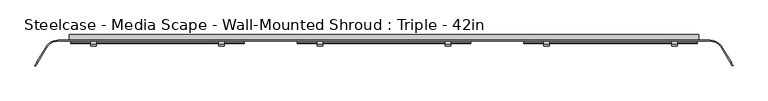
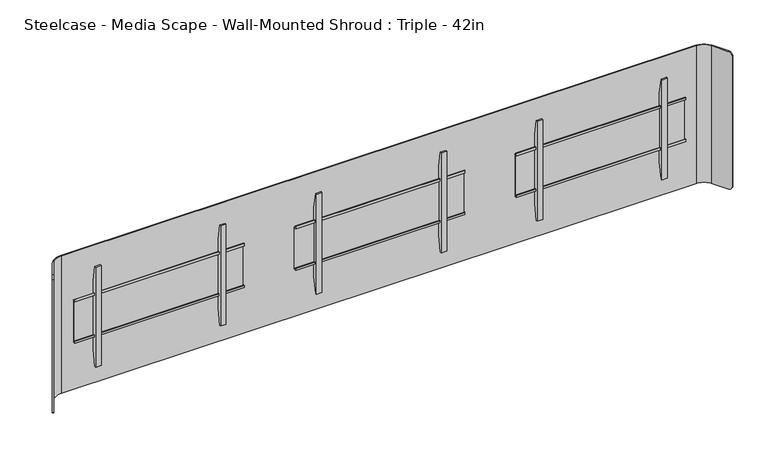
"""IFC4 building model written with IfcOpenShell, lengths in millimetres: furniture geometry, Steelcase - Media Scape - Wall-Mounted Shroud : Triple - 42in."""

from ifc_helpers import new_model, si_unit, frame, origin, place, context, project, spatial, polyline, circle_curve, outline, extrude, source, transform, mapped, element, save
from ifc_brep_helpers import plane_surface, cylinder_surface, revolved_surface, advanced_brep


def steelcase_media_scape_wall_mounted_shroud_triple_42in_8bc5bf69(model_context):
    return source(origin(), model_context, "Body", "SolidModel", [
        extrude(outline(polyline([(-42.4942785, 1288.4504726), (-42.4942785, 1300.4645649), (-39.8272175, 1300.4645649), (-39.8272175, 1291.117461), (-29.9720009, 1291.117461), (-29.9720009, 1076.7922438), (-42.3164551, 1076.7922438), (-42.3164551, 1087.7142515), (-39.649394, 1087.7142515), (-39.649394, 1079.457052), (-32.6531824, 1079.457052), (-32.6531824, 1288.4504726), (-42.4942785, 1288.4504726)])), frame((653.415, 0.0, 0.0), z_axis=(1.0, 0.0, 0.0), x_axis=(0.0, 1.0, 0.0)), (0.0, 0.0, 1.0), 812.8),
        extrude(outline(polyline([(-32.6531824, 1359.3971148), (-32.6531824, 1007.5825607), (-46.5049349, 929.9546949), (-53.3399828, 929.9546949), (-53.3399828, 1437.9547192), (-46.5050076, 1437.9547192), (-32.6531824, 1359.3971148)])), frame((747.016426, 0.0, 0.0), z_axis=(1.0, 0.0, 0.0), x_axis=(0.0, 1.0, 0.0)), (0.0, 0.0, 1.0), 26.1592872),
        extrude(outline(polyline([(-32.6531824, 1359.3971148), (-32.6531824, 1007.5825607), (-46.5049349, 929.9546949), (-53.3399828, 929.9546949), (-53.3399828, 1437.9547192), (-46.5050076, 1437.9547192), (-32.6531824, 1359.3971148)])), frame((1346.4542868, 0.0, 0.0), z_axis=(1.0, 0.0, 0.0), x_axis=(0.0, 1.0, 0.0)), (0.0, 0.0, 1.0), 26.1592872),
        extrude(outline(polyline([(-42.4942785, 1288.4504726), (-42.4942785, 1300.4645649), (-39.8272175, 1300.4645649), (-39.8272175, 1291.117461), (-29.9720009, 1291.117461), (-29.9720009, 1076.7922438), (-42.3164551, 1076.7922438), (-42.3164551, 1087.7142515), (-39.649394, 1087.7142515), (-39.649394, 1079.457052), (-32.6531824, 1079.457052), (-32.6531824, 1288.4504726), (-42.4942785, 1288.4504726)])), frame((-1466.215, 0.0, 0.0), z_axis=(1.0, 0.0, 0.0), x_axis=(0.0, 1.0, 0.0)), (0.0, 0.0, 1.0), 812.8),
        extrude(outline(polyline([(-32.6531824, 1359.3971148), (-32.6531824, 1007.5825607), (-46.5049349, 929.9546949), (-53.3399828, 929.9546949), (-53.3399828, 1437.9547192), (-46.5050076, 1437.9547192), (-32.6531824, 1359.3971148)])), frame((-773.1757132, 0.0, 0.0), z_axis=(1.0, 0.0, 0.0), x_axis=(0.0, 1.0, 0.0)), (0.0, 0.0, 1.0), 26.1592872),
        extrude(outline(polyline([(-32.6531824, 1359.3971148), (-32.6531824, 1007.5825607), (-46.5049349, 929.9546949), (-53.3399828, 929.9546949), (-53.3399828, 1437.9547192), (-46.5050076, 1437.9547192), (-32.6531824, 1359.3971148)])), frame((-1372.613574, 0.0, 0.0), z_axis=(1.0, 0.0, 0.0), x_axis=(0.0, 1.0, 0.0)), (0.0, 0.0, 1.0), 26.1592872),
        extrude(outline(polyline([(-42.4942785, 1288.4504726), (-42.4942785, 1300.4645649), (-39.8272175, 1300.4645649), (-39.8272175, 1291.117461), (-29.9720009, 1291.117461), (-29.9720009, 1076.7922438), (-42.3164551, 1076.7922438), (-42.3164551, 1087.7142515), (-39.649394, 1087.7142515), (-39.649394, 1079.457052), (-32.6531824, 1079.457052), (-32.6531824, 1288.4504726), (-42.4942785, 1288.4504726)])), frame((-406.4, 0.0, 0.0), z_axis=(1.0, 0.0, 0.0), x_axis=(0.0, 1.0, 0.0)), (0.0, 0.0, 1.0), 812.8),
        extrude(outline(polyline([(-32.6531824, 1359.3971148), (-32.6531824, 1007.5825607), (-46.5049349, 929.9546949), (-53.3399828, 929.9546949), (-53.3399828, 1437.9547192), (-46.5050076, 1437.9547192), (-32.6531824, 1359.3971148)])), frame((286.6392868, 0.0, 0.0), z_axis=(1.0, 0.0, 0.0), x_axis=(0.0, 1.0, 0.0)), (0.0, 0.0, 1.0), 26.1592872),
        extrude(outline(polyline([(-32.6531824, 1359.3971148), (-32.6531824, 1007.5825607), (-46.5049349, 929.9546949), (-53.3399828, 929.9546949), (-53.3399828, 1437.9547192), (-46.5050076, 1437.9547192), (-32.6531824, 1359.3971148)])), frame((-312.798574, 0.0, 0.0), z_axis=(1.0, 0.0, 0.0), x_axis=(0.0, 1.0, 0.0)), (0.0, 0.0, 1.0), 26.1592872),
        advanced_brep(
        [(-1580.0086135, -61.722, 1534.414), (-1525.016002, -29.9720009, 1534.414), (1525.016, -29.9720009, 1534.414), (1580.0086135, -61.722, 1534.414), (1620.129586, -131.2135628, 1534.414), (1624.0890541, -128.9275628, 1534.414), (1583.9680817, -59.436, 1534.414), (1525.016002, -25.4, 1534.414), (-1525.016, -25.4, 1534.414), (-1583.9680817, -59.436, 1534.414), (-1624.0921659, -128.9329524, 1534.414), (-1620.1326977, -131.2189524, 1534.414), (-1583.9680817, -59.436, 835.914), (-1525.016002, -25.4, 835.914), (1525.016, -25.4, 835.914), (1583.9680817, -59.436, 835.914), (1624.1406629, -129.0169518, 835.914), (1620.1811948, -131.3029518, 835.914), (1580.0086135, -61.722, 835.914), (1525.016002, -29.9720009, 835.914), (-1525.016, -29.9720009, 835.914), (-1580.0086135, -61.722, 835.914), (-1620.1954014, -131.3275584, 835.914), (-1624.1548695, -129.0415584, 835.914), (-1633.6590632, -145.5033047, 849.5242766), (-1633.6590632, -145.5033047, 1520.4227735), (-1629.6995951, -147.7893047, 1520.4227735), (-1629.6995951, -147.7893047, 849.5242766), (1629.6770866, -147.7503189, 849.4756893), (1629.6770866, -147.7503189, 1520.5433849), (1633.6365547, -145.4643189, 1520.5433849), (1633.6365547, -145.4643189, 849.4756893)],
        [
            (0, 1, circle_curve(frame((-1525.016002, -93.4719991, 1534.414), z_axis=(0.0, 0.0, -1.0), x_axis=(0.0, 1.0, 0.0)), 63.4999981)),
            (1, 2),
            (2, 3, circle_curve(frame((1525.016002, -93.4719991, 1534.414), z_axis=(0.0, 0.0, -1.0), x_axis=(0.0, 1.0, 0.0)), 63.4999981)),
            (3, 4),
            (4, 5),
            (5, 6),
            (6, 7, circle_curve(frame((1525.0160004, -93.472, 1534.414), z_axis=(0.0, 0.0, 1.0), x_axis=(0.0, 1.0, 0.0)), 68.072)),
            (7, 8),
            (8, 9, circle_curve(frame((-1525.0160004, -93.472, 1534.414), z_axis=(0.0, 0.0, 1.0), x_axis=(0.0, 1.0, 0.0)), 68.072)),
            (9, 10),
            (10, 11),
            (11, 0),
            (12, 13, circle_curve(frame((-1525.0160004, -93.472, 835.914), z_axis=(0.0, 0.0, -1.0), x_axis=(0.0, 1.0, 0.0)), 68.072)),
            (13, 14),
            (14, 15, circle_curve(frame((1525.0160004, -93.472, 835.914), z_axis=(0.0, 0.0, -1.0), x_axis=(0.0, 1.0, 0.0)), 68.072)),
            (15, 16),
            (16, 17),
            (17, 18),
            (18, 19, circle_curve(frame((1525.016002, -93.4719991, 835.914), z_axis=(0.0, 0.0, 1.0), x_axis=(0.0, 1.0, 0.0)), 63.4999981)),
            (19, 20),
            (20, 21, circle_curve(frame((-1525.016002, -93.4719991, 835.914), z_axis=(0.0, 0.0, 1.0), x_axis=(0.0, 1.0, 0.0)), 63.4999981)),
            (21, 22),
            (22, 23),
            (23, 12),
            (0, 21),
            (20, 1),
            (8, 13),
            (12, 9),
            (23, 24, circle_curve(frame((-1624.1548695, -129.0415584, 855.9928872), z_axis=(-0.8660254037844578, 0.49999999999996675, 0.0), x_axis=(-0.49999999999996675, -0.8660254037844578, 0.0)), 20.0788872)),
            (24, 25),
            (25, 10, circle_curve(frame((-1624.0921659, -128.9329524, 1514.3351128), z_axis=(-0.866025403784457, 0.49999999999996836, 0.0), x_axis=(-0.49999999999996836, -0.866025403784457, 0.0)), 20.0788872)),
            (26, 25),
            (24, 27),
            (27, 26),
            (11, 26, circle_curve(frame((-1620.1326977, -131.2189524, 1514.3351128), z_axis=(0.866025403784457, -0.49999999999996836, 0.0), x_axis=(-0.49999999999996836, -0.866025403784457, 0.0)), 20.0788872)),
            (27, 22, circle_curve(frame((-1620.1954014, -131.3275584, 855.9928872), z_axis=(0.8660254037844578, -0.49999999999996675, 0.0), x_axis=(-0.49999999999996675, -0.8660254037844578, 0.0)), 20.0788872)),
            (7, 14),
            (19, 2),
            (3, 18),
            (17, 28, circle_curve(frame((1620.1811948, -131.3029518, 855.9928872), z_axis=(-0.8660254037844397, -0.49999999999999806, 0.0), x_axis=(0.49999999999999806, -0.8660254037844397, 0.0)), 20.0788872)),
            (28, 29),
            (29, 4, circle_curve(frame((1620.129586, -131.2135628, 1514.3351128), z_axis=(-0.8660254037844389, -0.49999999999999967, 0.0), x_axis=(0.49999999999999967, -0.8660254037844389, 0.0)), 20.0788872)),
            (30, 29),
            (28, 31),
            (31, 30),
            (15, 6),
            (5, 30, circle_curve(frame((1624.0890541, -128.9275628, 1514.3351128), z_axis=(0.8660254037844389, 0.49999999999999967, 0.0), x_axis=(0.49999999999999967, -0.8660254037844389, 0.0)), 20.0788872)),
            (31, 16, circle_curve(frame((1624.1406629, -129.0169518, 855.9928872), z_axis=(0.8660254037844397, 0.49999999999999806, 0.0), x_axis=(0.49999999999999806, -0.8660254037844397, 0.0)), 20.0788872)),
        ],
        [
            plane_surface(frame((-1525.016002, -29.9720009, 1534.414), z_axis=(0.0, 0.0, 1.0), x_axis=(1.0, 0.0, 0.0))),
            plane_surface(frame((-1525.016002, -29.9720009, 835.914), z_axis=(0.0, 0.0, -1.0), x_axis=(-1.0, 0.0, 0.0))),
            revolved_surface(polyline([(-1525.016002, -29.972001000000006, 835.914), (-1525.016002, -29.972001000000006, 1534.414)]), (-1525.016002, -93.4719991, 835.914), (0.0, 0.0, -1.0)),
            cylinder_surface(frame((-1525.0160004, -93.472, 835.914), z_axis=(0.0, 0.0, 1.0), x_axis=(0.0, 1.0, 0.0)), 68.072),
            plane_surface(frame((-1583.9680817, -59.436, 1534.414), z_axis=(-0.866025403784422, 0.5000000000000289, 0.0), x_axis=(0.0, 0.0, -1.0))),
            plane_surface(frame((-1633.6590632, -145.5033047, 1534.414), z_axis=(-0.5000000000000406, -0.8660254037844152, 0.0), x_axis=(0.0, 0.0, -1.0))),
            plane_surface(frame((-1629.6995951, -147.7893047, 1534.414), z_axis=(0.8660254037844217, -0.5000000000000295, 0.0), x_axis=(0.0, 0.0, -1.0))),
            plane_surface(frame((1525.016, -25.4, 1534.414), z_axis=(0.0, 1.0, 0.0), x_axis=(0.0, 0.0, -1.0))),
            plane_surface(frame((-1525.016, -29.9720009, 1534.414), z_axis=(0.0, -1.0, 0.0), x_axis=(0.0, 0.0, -1.0))),
            plane_surface(frame((1580.0086135, -61.722, 1534.414), z_axis=(-0.8660254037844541, -0.4999999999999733, 0.0), x_axis=(0.0, 0.0, -1.0))),
            plane_surface(frame((1629.6770866, -147.7503189, 1534.414), z_axis=(0.4999999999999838, -0.866025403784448, 0.0), x_axis=(0.0, 0.0, -1.0))),
            plane_surface(frame((1633.6365547, -145.4643189, 1534.414), z_axis=(0.8660254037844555, 0.49999999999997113, 0.0), x_axis=(0.0, 0.0, -1.0))),
            cylinder_surface(frame((1525.0160004, -93.472, 835.914), z_axis=(0.0, 0.0, 1.0), x_axis=(0.0, 1.0, 0.0)), 68.072),
            revolved_surface(polyline([(1525.016002, -29.972001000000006, 835.914), (1525.016002, -29.972001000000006, 1534.414)]), (1525.016002, -93.4719991, 835.914), (0.0, 0.0, -1.0)),
            cylinder_surface(frame((-1620.1326977, -131.2189524, 1514.3351128), z_axis=(0.866025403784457, -0.49999999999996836, 0.0), x_axis=(-0.49999999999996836, -0.866025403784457, 0.0)), 20.0788872),
            cylinder_surface(frame((-1620.1954014, -131.3275584, 855.9928872), z_axis=(0.8660254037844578, -0.49999999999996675, 0.0), x_axis=(-0.49999999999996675, -0.8660254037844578, 0.0)), 20.0788872),
            cylinder_surface(frame((1635.2364297, -122.4916225, 1514.3351128), z_axis=(0.8660254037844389, 0.49999999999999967, 0.0), x_axis=(0.49999999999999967, -0.8660254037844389, 0.0)), 20.0788872),
            cylinder_surface(frame((1632.4289695, -124.2316958, 855.9928872), z_axis=(0.8660254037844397, 0.49999999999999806, 0.0), x_axis=(0.49999999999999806, -0.8660254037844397, 0.0)), 20.0788872),
        ],
        [
            (0, [[1, 2, 3, 4, 5, 6, 7, 8, 9, 10, 11, 12]]),
            (1, [[13, 14, 15, 16, 17, 18, 19, 20, 21, 22, 23, 24]]),
            (2, [[-1, 25, -21, 26]]),
            (3, [[-9, 27, -13, 28]]),
            (4, [[-28, -24, 29, 30, 31, -10]]),
            (5, [[32, -30, 33, 34]]),
            (6, [[-25, -12, 35, -34, 36, -22]]),
            (7, [[-8, 37, -14, -27]]),
            (8, [[-2, -26, -20, 38]]),
            (9, [[39, -18, 40, 41, 42, -4]]),
            (10, [[43, -41, 44, 45]]),
            (11, [[46, -6, 47, -45, 48, -16]]),
            (12, [[-7, -46, -15, -37]]),
            (13, [[-3, -38, -19, -39]]),
            (14, [[-11, -31, -32, -35]]),
            (15, [[-23, -36, -33, -29]]),
            (16, [[-5, -42, -43, -47]]),
            (17, [[-17, -48, -44, -40]]),
        ],
    ),
        extrude(outline(polyline([(912.1648167, 1409.6999879), (912.1648167, 1473.2), (1458.214, 1473.2), (1458.214, -1473.2), (912.1648167, -1473.2), (912.1648167, -1410.6933465), (1394.7139516, -1410.6933465), (1394.7139516, 1409.6999879), (912.1648167, 1409.6999879)])), frame((0.0, -25.4, 0.0), z_axis=(0.0, 1.0, 0.0), x_axis=(0.0, 0.0, 1.0)), (0.0, 0.0, 1.0), 25.4),
    ])


if __name__ == "__main__":
    model = new_model("IFC4")
    model_context = context("Model", 3, world=origin())
    ifc_project = project(units=[si_unit("LENGTHUNIT", "METRE", prefix="MILLI")], contexts=[model_context])
    site = spatial("IfcSite", under=ifc_project)
    building = spatial("IfcBuilding", under=site)
    placement = place(None, origin())
    steelcase_media_scape_wall_mounted_shroud_triple_42in_shape = steelcase_media_scape_wall_mounted_shroud_triple_42in_8bc5bf69(model_context)
    element("IfcFurniture", 1, ObjectType="Steelcase - Media Scape - Wall-Mounted Shroud : Triple - 42in", at=placement, inside=building, context=model_context, shape_type="MappedRepresentation", body=[
        mapped(steelcase_media_scape_wall_mounted_shroud_triple_42in_shape, transform((0.0, 0.0, 0.0), x_axis=(1.0, 0.0, 0.0), y_axis=(0.0, 1.0, 0.0), z_axis=(0.0, 0.0, 1.0))),
    ])
    save(model, "model.ifc")
